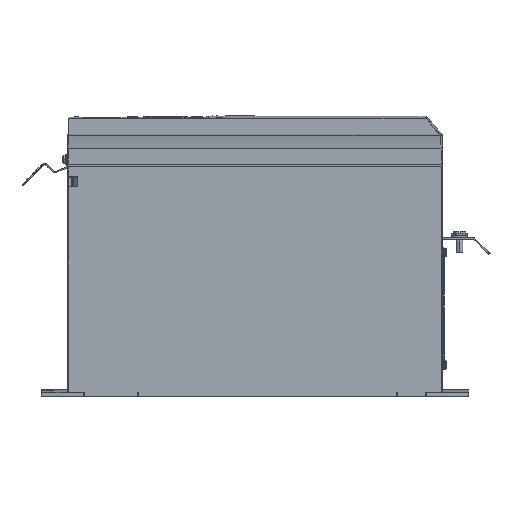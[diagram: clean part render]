
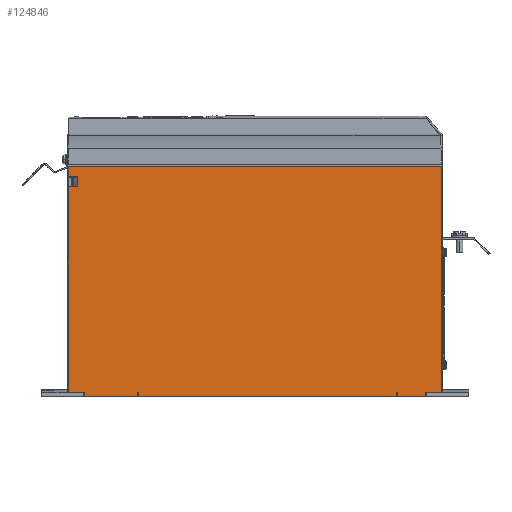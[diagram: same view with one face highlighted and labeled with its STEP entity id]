
A CAD part, left-side view. The second image highlights one B-rep face of the part: STEP entity #124846.
In plain terms, the highlighted planar face has unit normal (-1, 0, 0).
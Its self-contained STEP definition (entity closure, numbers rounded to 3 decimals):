
#42161=DIRECTION('',(0.,1.,0.));
#42162=VECTOR('',#42161,8.146);
#42163=CARTESIAN_POINT('',(-82.5,166.604,205.45));
#42164=LINE('',#42163,#42162);
#42168=DIRECTION('',(0.,0.,1.));
#42169=VECTOR('',#42168,9.2);
#42170=CARTESIAN_POINT('',(-82.5,174.75,205.45));
#42171=LINE('',#42170,#42169);
#42175=DIRECTION('',(0.,1.,0.));
#42176=VECTOR('',#42175,349.25);
#42177=CARTESIAN_POINT('',(-82.5,-174.5,214.65));
#42178=LINE('',#42177,#42176);
#42182=DIRECTION('',(0.,0.,-1.));
#42183=VECTOR('',#42182,210.882);
#42184=CARTESIAN_POINT('',(-82.5,-174.5,214.65));
#42185=LINE('',#42184,#42183);
#42189=DIRECTION('',(0.,1.,0.));
#42190=VECTOR('',#42189,14.95);
#42191=CARTESIAN_POINT('',(-82.5,-174.5,3.768));
#42192=LINE('',#42191,#42190);
#42196=DIRECTION('',(0.,0.,1.));
#42197=VECTOR('',#42196,3.768);
#42198=CARTESIAN_POINT('',(-82.5,-132.589,0.));
#42199=LINE('',#42198,#42197);
#42203=DIRECTION('',(0.,1.,0.));
#42204=VECTOR('',#42203,0.5);
#42205=CARTESIAN_POINT('',(-82.5,-132.589,3.768));
#42206=LINE('',#42205,#42204);
#42210=DIRECTION('',(0.,0.,-1.));
#42211=VECTOR('',#42210,3.775);
#42212=CARTESIAN_POINT('',(-82.5,-132.089,3.768));
#42213=LINE('',#42212,#42211);
#42217=DIRECTION('',(0.,1.,0.));
#42218=VECTOR('',#42217,241.178);
#42219=CARTESIAN_POINT('',(-82.5,-132.089,-0.007));
#42220=LINE('',#42219,#42218);
#42224=DIRECTION('',(0.,0.,1.));
#42225=VECTOR('',#42224,3.775);
#42226=CARTESIAN_POINT('',(-82.5,109.089,-0.007));
#42227=LINE('',#42226,#42225);
#42231=DIRECTION('',(0.,1.,0.));
#42232=VECTOR('',#42231,0.5);
#42233=CARTESIAN_POINT('',(-82.5,109.089,3.768));
#42234=LINE('',#42233,#42232);
#42238=DIRECTION('',(0.,0.,1.));
#42239=VECTOR('',#42238,3.768);
#42240=CARTESIAN_POINT('',(-82.5,109.589,0.));
#42241=LINE('',#42240,#42239);
#42245=DIRECTION('',(0.,1.,0.));
#42246=VECTOR('',#42245,15.594);
#42247=CARTESIAN_POINT('',(-82.5,159.156,3.768));
#42248=LINE('',#42247,#42246);
#42252=DIRECTION('',(0.,0.,1.));
#42253=VECTOR('',#42252,192.182);
#42254=CARTESIAN_POINT('',(-82.5,174.75,3.768));
#42255=LINE('',#42254,#42253);
#42259=DIRECTION('',(0.,1.,0.));
#42260=VECTOR('',#42259,8.854);
#42261=CARTESIAN_POINT('',(-82.5,165.896,195.95));
#42262=LINE('',#42261,#42260);
#42266=DIRECTION('',(0.,0.,-1.));
#42267=VECTOR('',#42266,9.);
#42268=CARTESIAN_POINT('',(-82.5,165.896,
204.95));
#42269=LINE('',#42268,#42267);
#42273=CARTESIAN_POINT('',(-82.5,165.896,
204.95));
#42274=CARTESIAN_POINT('',(-82.5,165.896,
204.967));
#42275=CARTESIAN_POINT('',(-82.5,165.899,
205.001));
#42276=CARTESIAN_POINT('',(-82.5,165.911,
205.055));
#42277=CARTESIAN_POINT('',(-82.5,165.933,
205.112));
#42278=CARTESIAN_POINT('',(-82.5,165.966,
205.17));
#42279=CARTESIAN_POINT('',(-82.5,166.014,
205.229));
#42280=CARTESIAN_POINT('',(-82.5,166.075,
205.285));
#42281=CARTESIAN_POINT('',(-82.5,166.152,
205.337));
#42282=CARTESIAN_POINT('',(-82.5,166.244,
205.383));
#42283=CARTESIAN_POINT('',(-82.5,166.352,
205.42));
#42284=CARTESIAN_POINT('',(-82.5,166.473,
205.444));
#42285=CARTESIAN_POINT('',(-82.5,166.559,
205.45));
#42286=CARTESIAN_POINT('',(-82.5,166.604,205.45));
#42702=CARTESIAN_POINT('',(-82.5,-174.5,3.768));
#42728=CARTESIAN_POINT('',(-82.5,174.75,3.768));
#44880=DIRECTION('',(0.,-1.,0.));
#44881=VECTOR('',#44880,26.961);
#44882=CARTESIAN_POINT('',(-82.5,-132.589,0.));
#44883=LINE('',#44882,#44881);
#44930=DIRECTION('',(0.,0.,1.));
#44931=VECTOR('',#44930,3.768);
#44932=CARTESIAN_POINT('',(-82.5,-159.55,0.));
#44933=LINE('',#44932,#44931);
#45559=DIRECTION('',(0.,0.,1.));
#45560=VECTOR('',#45559,3.768);
#45561=CARTESIAN_POINT('',(-82.5,159.156,0.));
#45562=LINE('',#45561,#45560);
#45602=DIRECTION('',(0.,-1.,0.));
#45603=VECTOR('',#45602,49.567);
#45604=CARTESIAN_POINT('',(-82.5,159.156,0.));
#45605=LINE('',#45604,#45603);
#63158=CARTESIAN_POINT('',(-82.5,-132.089,-0.007));
#63159=CARTESIAN_POINT('',(-82.5,109.089,-0.007));
#63160=VERTEX_POINT('',#63158);
#63161=VERTEX_POINT('',#63159);
#63167=CARTESIAN_POINT('',(-82.5,109.089,3.768));
#63169=VERTEX_POINT('',#63167);
#63171=CARTESIAN_POINT('',(-82.5,-132.089,3.768));
#63173=VERTEX_POINT('',#63171);
#63180=CARTESIAN_POINT('',(-82.5,-132.589,0.));
#63181=VERTEX_POINT('',#63180);
#63182=CARTESIAN_POINT('',(-82.5,-159.55,0.));
#63183=VERTEX_POINT('',#63182);
#63206=CARTESIAN_POINT('',(-82.5,-132.589,3.768));
#63207=VERTEX_POINT('',#63206);
#63208=CARTESIAN_POINT('',(-82.5,-159.55,3.768));
#63210=VERTEX_POINT('',#63208);
#63255=VERTEX_POINT('',#42702);
#63262=CARTESIAN_POINT('',(-82.5,109.589,0.));
#63263=VERTEX_POINT('',#63262);
#63264=CARTESIAN_POINT('',(-82.5,159.156,0.));
#63265=VERTEX_POINT('',#63264);
#63288=CARTESIAN_POINT('',(-82.5,109.589,3.768));
#63289=VERTEX_POINT('',#63288);
#63290=CARTESIAN_POINT('',(-82.5,159.156,3.768));
#63292=VERTEX_POINT('',#63290);
#63735=CARTESIAN_POINT('',(-82.5,-174.5,214.65));
#63737=VERTEX_POINT('',#63735);
#64416=CARTESIAN_POINT('',(-82.5,174.75,214.65));
#64417=VERTEX_POINT('',#64416);
#64418=VERTEX_POINT('',#42728);
#64453=CARTESIAN_POINT('',(-82.5,166.604,205.45));
#64454=CARTESIAN_POINT('',(-82.5,174.75,205.45));
#64455=VERTEX_POINT('',#64453);
#64456=VERTEX_POINT('',#64454);
#64508=VERTEX_POINT('',#42273);
#64512=CARTESIAN_POINT('',(-82.5,165.896,195.95));
#64513=VERTEX_POINT('',#64512);
#64724=CARTESIAN_POINT('',(-82.5,174.75,195.95));
#64726=VERTEX_POINT('',#64724);
#124797=CARTESIAN_POINT('',(-82.5,-175.,3.768));
#124798=DIRECTION('',(-1.,0.,0.));
#124799=DIRECTION('',(0.,0.,1.));
#124800=AXIS2_PLACEMENT_3D('',#124797,#124798,#124799);
#124801=PLANE('',#124800);
#124803=ORIENTED_EDGE('',*,*,#124802,.T.);
#124805=ORIENTED_EDGE('',*,*,#124804,.T.);
#124807=ORIENTED_EDGE('',*,*,#124806,.F.);
#124809=ORIENTED_EDGE('',*,*,#124808,.T.);
#124811=ORIENTED_EDGE('',*,*,#124810,.T.);
#124813=ORIENTED_EDGE('',*,*,#124812,.F.);
#124815=ORIENTED_EDGE('',*,*,#124814,.F.);
#124817=ORIENTED_EDGE('',*,*,#124816,.T.);
#124819=ORIENTED_EDGE('',*,*,#124818,.T.);
#124821=ORIENTED_EDGE('',*,*,#124820,.T.);
#124823=ORIENTED_EDGE('',*,*,#124822,.T.);
#124825=ORIENTED_EDGE('',*,*,#124824,.T.);
#124827=ORIENTED_EDGE('',*,*,#124826,.T.);
#124829=ORIENTED_EDGE('',*,*,#124828,.F.);
#124831=ORIENTED_EDGE('',*,*,#124830,.F.);
#124833=ORIENTED_EDGE('',*,*,#124832,.T.);
#124835=ORIENTED_EDGE('',*,*,#124834,.T.);
#124837=ORIENTED_EDGE('',*,*,#124836,.T.);
#124839=ORIENTED_EDGE('',*,*,#124838,.F.);
#124841=ORIENTED_EDGE('',*,*,#124840,.F.);
#124843=ORIENTED_EDGE('',*,*,#124842,.T.);
#124844=EDGE_LOOP('',(#124803,#124805,#124807,#124809,#124811,#124813,#124815,
#124817,#124819,#124821,#124823,#124825,#124827,#124829,#124831,#124833,#124835,
#124837,#124839,#124841,#124843));
#124845=FACE_OUTER_BOUND('',#124844,.F.);
#124846=ADVANCED_FACE('',(#124845),#124801,.T.);
#42287=B_SPLINE_CURVE_WITH_KNOTS('',3,(#42273,#42274,#42275,#42276,#42277,
#42278,#42279,#42280,#42281,#42282,#42283,#42284,#42285,#42286),.UNSPECIFIED.,
.F.,.F.,(4,1,1,1,1,1,1,1,1,1,1,4),(0.,0.091,0.182,
0.273,0.364,0.455,0.545,
0.636,0.727,0.818,0.909,1.),
.UNSPECIFIED.);
#124802=EDGE_CURVE('',#64455,#64456,#42164,.T.);
#124804=EDGE_CURVE('',#64456,#64417,#42171,.T.);
#124806=EDGE_CURVE('',#63737,#64417,#42178,.T.);
#124808=EDGE_CURVE('',#63737,#63255,#42185,.T.);
#124810=EDGE_CURVE('',#63255,#63210,#42192,.T.);
#124812=EDGE_CURVE('',#63183,#63210,#44933,.T.);
#124814=EDGE_CURVE('',#63181,#63183,#44883,.T.);
#124816=EDGE_CURVE('',#63181,#63207,#42199,.T.);
#124818=EDGE_CURVE('',#63207,#63173,#42206,.T.);
#124820=EDGE_CURVE('',#63173,#63160,#42213,.T.);
#124822=EDGE_CURVE('',#63160,#63161,#42220,.T.);
#124824=EDGE_CURVE('',#63161,#63169,#42227,.T.);
#124826=EDGE_CURVE('',#63169,#63289,#42234,.T.);
#124828=EDGE_CURVE('',#63263,#63289,#42241,.T.);
#124830=EDGE_CURVE('',#63265,#63263,#45605,.T.);
#124832=EDGE_CURVE('',#63265,#63292,#45562,.T.);
#124834=EDGE_CURVE('',#63292,#64418,#42248,.T.);
#124836=EDGE_CURVE('',#64418,#64726,#42255,.T.);
#124838=EDGE_CURVE('',#64513,#64726,#42262,.T.);
#124840=EDGE_CURVE('',#64508,#64513,#42269,.T.);
#124842=EDGE_CURVE('',#64508,#64455,#42287,.T.);
